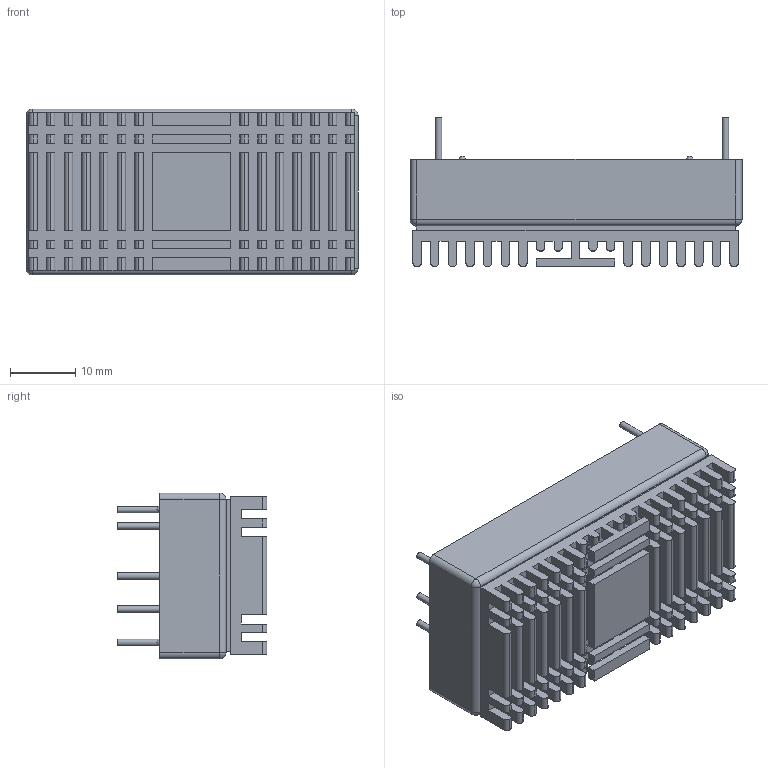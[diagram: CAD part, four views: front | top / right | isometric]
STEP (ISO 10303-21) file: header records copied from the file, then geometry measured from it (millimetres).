
FILE_DESCRIPTION(/* description */ ('Unknown'),/* implementation_level */ '2;1');
FILE_NAME(/* name */ 'RDC30(S)(SK)',/* time_stamp */ '2017-12-01T16:41:00+08:00',/* author */ ('Unknown'),/* organization */ ('Unknown'),/* preprocessor_version */ 'ST-DEVELOPER v16.7',/* originating_system */ 'DEX',/* authorisation */ $);
FILE_SCHEMA (('AUTOMOTIVE_DESIGN {1 0 10303 214 3 1 1}'));
Length unit declared in the file: millimetre
Products named in the file (3): RDC30(S)(SK); RDC30(D); 2X1散熱片-Gr-
Assembly tree (2 placements, depth 2):
  RDC30(S)(SK)
    RDC30(D)
    2X1散熱片-Gr-
Bounding box: 50.8 x 22.9 x 25.4 mm (x, y, z)
Volume: 17606.6 mm3; surface area: 10470.4 mm2
Topology: 2 solids, 2 shells, 582 faces, 1556 edges, 1028 vertices
Faces by surface type: plane 380, cylinder 194, sphere 8
Full cylindrical faces by diameter (mm): 1 x6
Entity records: 21887 total; most frequent: CARTESIAN_POINT 3143, DIRECTION 3096, ORIENTED_EDGE 3068, EDGE_CURVE 1534, LINE 1142, VECTOR 1142, VERTEX_POINT 1024, AXIS2_PLACEMENT_3D 977
